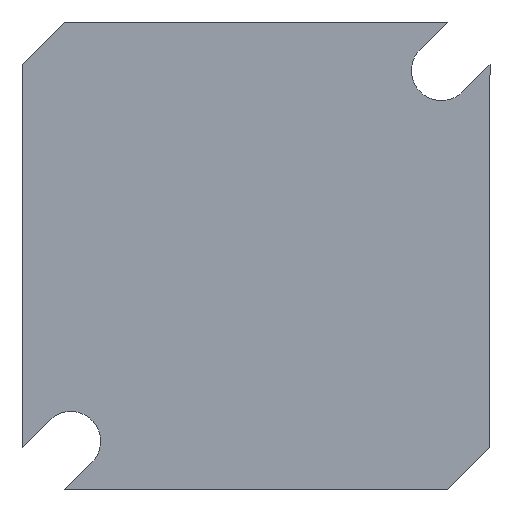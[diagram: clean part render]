
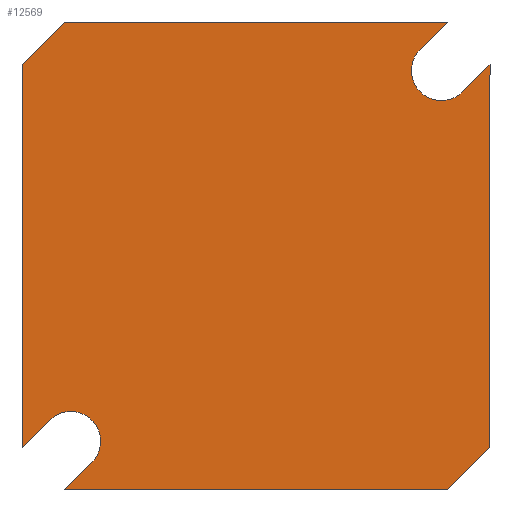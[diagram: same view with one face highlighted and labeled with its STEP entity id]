
A CAD part, front view. The second image highlights one B-rep face of the part: STEP entity #12569.
In plain terms, the highlighted planar face has unit normal (0, -1, 0).
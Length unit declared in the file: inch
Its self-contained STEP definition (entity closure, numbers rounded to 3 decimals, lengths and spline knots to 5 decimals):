
#211 = VERTEX_POINT ( 'NONE', #12442 ) ;
#387 = EDGE_CURVE ( 'NONE', #3529, #11925, #20852, .T. ) ;
#411 = AXIS2_PLACEMENT_3D ( 'NONE', #1039, #13678, #2866 ) ;
#580 = CARTESIAN_POINT ( 'NONE',  ( 0., -0.06299, -0.08908 ) ) ;
#898 = DIRECTION ( 'NONE',  ( 0.707, 0., 0.707 ) ) ;
#933 = VECTOR ( 'NONE', #12962, 39.37008 ) ;
#1039 = CARTESIAN_POINT ( 'NONE',  ( 0.10236, -0.06299, -0.88189 ) ) ;
#1059 = CARTESIAN_POINT ( 'NONE',  ( 0.89517, -0.06299, 0. ) ) ;
#1205 = PLANE ( 'NONE',  #9974 ) ;
#1241 = CARTESIAN_POINT ( 'NONE',  ( 0.08908, -0.06299, 0. ) ) ;
#1248 = VERTEX_POINT ( 'NONE', #2405 ) ;
#1399 = EDGE_CURVE ( 'NONE', #2016, #20641, #8511, .T. ) ;
#1965 = EDGE_LOOP ( 'NONE', ( #20278, #19518, #8512, #13217, #3290, #10143, #11521, #19140, #13994, #17748, #3108, #4549, #16674 ) ) ;
#2016 = VERTEX_POINT ( 'NONE', #13360 ) ;
#2104 = LINE ( 'NONE', #3482, #11762 ) ;
#2143 = VECTOR ( 'NONE', #6189, 39.37008 ) ;
#2405 = CARTESIAN_POINT ( 'NONE',  ( 0.89517, -0.06299, 0. ) ) ;
#2866 = DIRECTION ( 'NONE',  ( 0., 0., 1. ) ) ;
#2880 = CARTESIAN_POINT ( 'NONE',  ( 0., -0.06299, -0.89517 ) ) ;
#3108 = ORIENTED_EDGE ( 'NONE', *, *, #387, .F. ) ;
#3236 = LINE ( 'NONE', #10098, #17050 ) ;
#3290 = ORIENTED_EDGE ( 'NONE', *, *, #6410, .F. ) ;
#3482 = CARTESIAN_POINT ( 'NONE',  ( 0.08908, -0.06299, -0.98425 ) ) ;
#3519 = EDGE_CURVE ( 'NONE', #18858, #18317, #11719, .T. ) ;
#3529 = VERTEX_POINT ( 'NONE', #11876 ) ;
#3697 = VECTOR ( 'NONE', #21148, 39.37008 ) ;
#3955 = DIRECTION ( 'NONE',  ( -0.707, 0., -0.707 ) ) ;
#4549 = ORIENTED_EDGE ( 'NONE', *, *, #7981, .F. ) ;
#4586 = CARTESIAN_POINT ( 'NONE',  ( 0.98425, -0.06299, -0.08908 ) ) ;
#4833 = LINE ( 'NONE', #5220, #18630 ) ;
#4857 = DIRECTION ( 'NONE',  ( 0., 0., 1. ) ) ;
#5220 = CARTESIAN_POINT ( 'NONE',  ( 0.98425, -0.06299, -0.08908 ) ) ;
#6189 = DIRECTION ( 'NONE',  ( 1., 0., 0. ) ) ;
#6410 = EDGE_CURVE ( 'NONE', #20641, #11238, #22870, .T. ) ;
#6464 = CARTESIAN_POINT ( 'NONE',  ( 0.10236, -0.06299, -0.88189 ) ) ;
#6506 = VERTEX_POINT ( 'NONE', #12444 ) ;
#6910 = VECTOR ( 'NONE', #19057, 39.37008 ) ;
#7029 = DIRECTION ( 'NONE',  ( 0.707, 0., 0.707 ) ) ;
#7546 = LINE ( 'NONE', #18726, #2143 ) ;
#7981 = EDGE_CURVE ( 'NONE', #17399, #3529, #19710, .T. ) ;
#8230 = VERTEX_POINT ( 'NONE', #22575 ) ;
#8309 = DIRECTION ( 'NONE',  ( 0., 0., 1. ) ) ;
#8511 = LINE ( 'NONE', #15427, #3697 ) ;
#8512 = ORIENTED_EDGE ( 'NONE', *, *, #23231, .F. ) ;
#8889 = EDGE_CURVE ( 'NONE', #8230, #18858, #3236, .T. ) ;
#9082 = CIRCLE ( 'NONE', #411, 0.06299 ) ;
#9353 = CARTESIAN_POINT ( 'NONE',  ( 0., -0.06299, -0.08908 ) ) ;
#9409 = CARTESIAN_POINT ( 'NONE',  ( 0.89517, -0.06299, -0.98425 ) ) ;
#9974 = AXIS2_PLACEMENT_3D ( 'NONE', #13847, #15635, #4857 ) ;
#10004 = CARTESIAN_POINT ( 'NONE',  ( 0.10236, -0.06299, -0.8189 ) ) ;
#10098 = CARTESIAN_POINT ( 'NONE',  ( 0.08908, -0.06299, -0.98425 ) ) ;
#10143 = ORIENTED_EDGE ( 'NONE', *, *, #1399, .F. ) ;
#10331 = DIRECTION ( 'NONE',  ( 0., 0., 1. ) ) ;
#10713 = CARTESIAN_POINT ( 'NONE',  ( 0.88189, -0.06299, -0.10236 ) ) ;
#10737 = VECTOR ( 'NONE', #23143, 39.37008 ) ;
#10772 = CARTESIAN_POINT ( 'NONE',  ( 0., -0.06299, -0.89517 ) ) ;
#11238 = VERTEX_POINT ( 'NONE', #580 ) ;
#11521 = ORIENTED_EDGE ( 'NONE', *, *, #19980, .F. ) ;
#11627 = CARTESIAN_POINT ( 'NONE',  ( 0.1469, -0.06299, -0.92643 ) ) ;
#11684 = EDGE_CURVE ( 'NONE', #11238, #21348, #15318, .T. ) ;
#11719 = CIRCLE ( 'NONE', #17403, 0.06299 ) ;
#11744 = LINE ( 'NONE', #1059, #6910 ) ;
#11762 = VECTOR ( 'NONE', #16105, 39.37008 ) ;
#11876 = CARTESIAN_POINT ( 'NONE',  ( 0.98425, -0.06299, -0.89517 ) ) ;
#11925 = VERTEX_POINT ( 'NONE', #18497 ) ;
#12442 = CARTESIAN_POINT ( 'NONE',  ( 0.83735, -0.06299, -0.05782 ) ) ;
#12444 = CARTESIAN_POINT ( 'NONE',  ( 0.92643, -0.06299, -0.1469 ) ) ;
#12514 = DIRECTION ( 'NONE',  ( 0., 0., 1. ) ) ;
#12569 = ADVANCED_FACE ( 'NONE', ( #17308 ), #1205, .F. ) ;
#12962 = DIRECTION ( 'NONE',  ( 0.707, 0., 0.707 ) ) ;
#13217 = ORIENTED_EDGE ( 'NONE', *, *, #11684, .F. ) ;
#13329 = VECTOR ( 'NONE', #10331, 39.37008 ) ;
#13360 = CARTESIAN_POINT ( 'NONE',  ( 0.05782, -0.06299, -0.83735 ) ) ;
#13678 = DIRECTION ( 'NONE',  ( 0., -1., 0. ) ) ;
#13847 = CARTESIAN_POINT ( 'NONE',  ( 0.88189, -0.06299, -0.10236 ) ) ;
#13994 = ORIENTED_EDGE ( 'NONE', *, *, #8889, .F. ) ;
#14026 = CIRCLE ( 'NONE', #20612, 0.06299 ) ;
#15318 = LINE ( 'NONE', #9353, #933 ) ;
#15427 = CARTESIAN_POINT ( 'NONE',  ( 0., -0.06299, -0.89517 ) ) ;
#15496 = EDGE_CURVE ( 'NONE', #1248, #211, #11744, .T. ) ;
#15635 = DIRECTION ( 'NONE',  ( 0., 1., 0. ) ) ;
#16083 = VECTOR ( 'NONE', #3955, 39.37008 ) ;
#16105 = DIRECTION ( 'NONE',  ( -1., 0., 0. ) ) ;
#16674 = ORIENTED_EDGE ( 'NONE', *, *, #17021, .F. ) ;
#17021 = EDGE_CURVE ( 'NONE', #6506, #17399, #4833, .T. ) ;
#17050 = VECTOR ( 'NONE', #898, 39.37008 ) ;
#17308 = FACE_OUTER_BOUND ( 'NONE', #1965, .T. ) ;
#17399 = VERTEX_POINT ( 'NONE', #4586 ) ;
#17403 = AXIS2_PLACEMENT_3D ( 'NONE', #6464, #19083, #8309 ) ;
#17748 = ORIENTED_EDGE ( 'NONE', *, *, #18520, .F. ) ;
#18054 = EDGE_CURVE ( 'NONE', #211, #6506, #14026, .T. ) ;
#18317 = VERTEX_POINT ( 'NONE', #10004 ) ;
#18497 = CARTESIAN_POINT ( 'NONE',  ( 0.89517, -0.06299, -0.98425 ) ) ;
#18520 = EDGE_CURVE ( 'NONE', #11925, #8230, #2104, .T. ) ;
#18630 = VECTOR ( 'NONE', #7029, 39.37008 ) ;
#18726 = CARTESIAN_POINT ( 'NONE',  ( 0.89517, -0.06299, 0. ) ) ;
#18858 = VERTEX_POINT ( 'NONE', #11627 ) ;
#19057 = DIRECTION ( 'NONE',  ( -0.707, 0., -0.707 ) ) ;
#19083 = DIRECTION ( 'NONE',  ( 0., -1., 0. ) ) ;
#19140 = ORIENTED_EDGE ( 'NONE', *, *, #3519, .F. ) ;
#19518 = ORIENTED_EDGE ( 'NONE', *, *, #15496, .F. ) ;
#19710 = LINE ( 'NONE', #23057, #10737 ) ;
#19980 = EDGE_CURVE ( 'NONE', #18317, #2016, #9082, .T. ) ;
#20278 = ORIENTED_EDGE ( 'NONE', *, *, #18054, .F. ) ;
#20612 = AXIS2_PLACEMENT_3D ( 'NONE', #10713, #23233, #12514 ) ;
#20641 = VERTEX_POINT ( 'NONE', #10772 ) ;
#20852 = LINE ( 'NONE', #9409, #16083 ) ;
#21148 = DIRECTION ( 'NONE',  ( -0.707, 0., -0.707 ) ) ;
#21348 = VERTEX_POINT ( 'NONE', #1241 ) ;
#22575 = CARTESIAN_POINT ( 'NONE',  ( 0.08908, -0.06299, -0.98425 ) ) ;
#22870 = LINE ( 'NONE', #2880, #13329 ) ;
#23057 = CARTESIAN_POINT ( 'NONE',  ( 0.98425, -0.06299, -0.89517 ) ) ;
#23143 = DIRECTION ( 'NONE',  ( 0., 0., -1. ) ) ;
#23231 = EDGE_CURVE ( 'NONE', #21348, #1248, #7546, .T. ) ;
#23233 = DIRECTION ( 'NONE',  ( 0., -1., 0. ) ) ;
